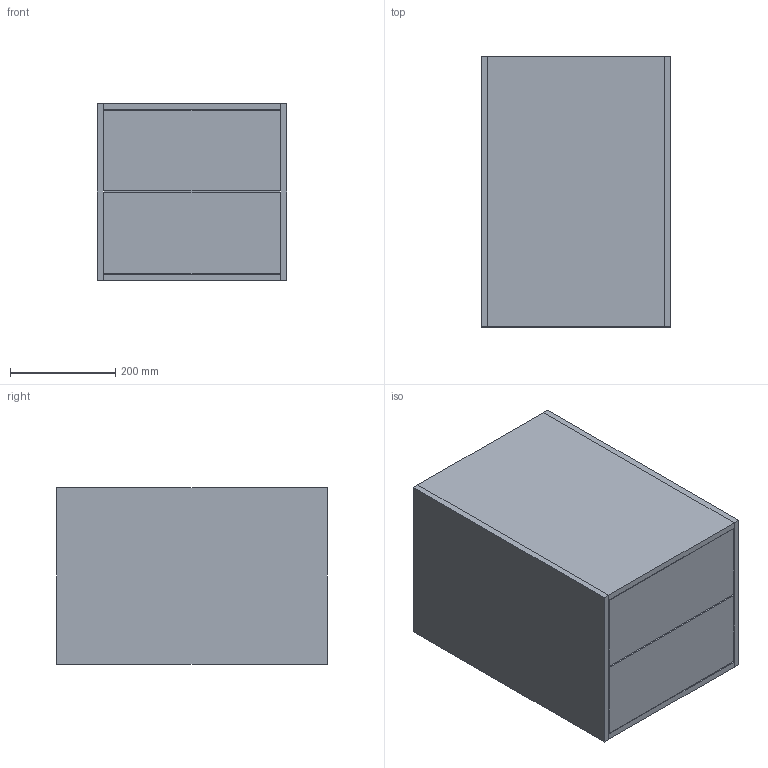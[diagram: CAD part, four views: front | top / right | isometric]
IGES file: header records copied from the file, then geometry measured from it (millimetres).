
Start section: Data from Parasolid IGES Translator 19.0.9, Copyright(c) 2006 Siemens PL M Software. All Rights Reserved.
Global section: file name: noorth-FJ-H 33,5 D 51,2 W 36_2494.igs; native system: By Siemens PLM Incorporated; preprocessor: XPlus GENERIC/IGES 19.0.9; author: Noname; organization: Noname; date: 20200507.120003; units: metre
Bounding box: 360 x 512 x 335 mm (x, y, z)
Volume: 10498746 mm3; surface area: 1908606 mm2
Topology: 7 solids, 7 shells, 42 faces, 84 edges, 56 vertices
Faces by surface type: plane 42
